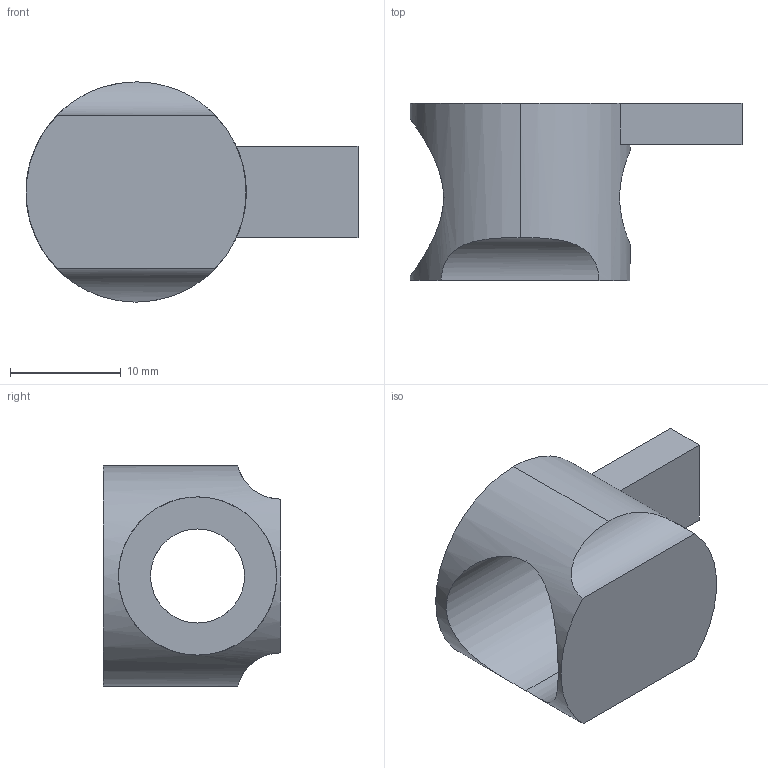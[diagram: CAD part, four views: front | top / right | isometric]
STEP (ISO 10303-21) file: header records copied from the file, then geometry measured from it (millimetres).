
FILE_DESCRIPTION (( 'STEP AP203' ), '1' );
FILE_NAME ('DUJ408-G.STEP', '2018-06-07T01:16:27', ( '' ), ( '' ), 'SwSTEP 2.0', 'SolidWorks 2012', '' );
FILE_SCHEMA (( 'CONFIG_CONTROL_DESIGN' ));
Length unit declared in the file: millimetre
Products named in the file (1): DUJ408-G
Bounding box: 30 x 16 x 19.9 mm (x, y, z)
Volume: 2734.6 mm3; surface area: 2403.7 mm2
Topology: 1 solids, 1 shells, 19 faces, 48 edges, 32 vertices
Faces by surface type: plane 11, cylinder 8
Entity records: 892 total; most frequent: CARTESIAN_POINT 354, ORIENTED_EDGE 96, DIRECTION 91, EDGE_CURVE 48, VERTEX_POINT 32, AXIS2_PLACEMENT_3D 31, VECTOR 29, LINE 29
